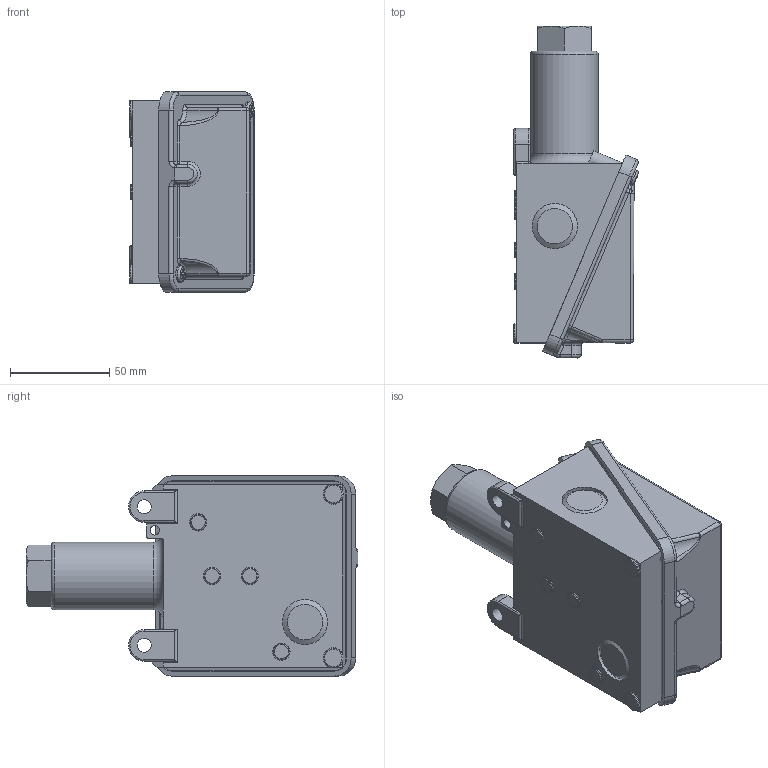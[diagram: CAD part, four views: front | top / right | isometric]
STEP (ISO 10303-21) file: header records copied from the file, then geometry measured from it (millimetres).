
FILE_DESCRIPTION (( 'STEP AP214' ), '1' );
FILE_NAME ('H100-188_189, 488_489_V5.STEP', '2025-02-28T14:26:57', ( '' ), ( '' ), 'SwSTEP 2.0', 'SolidWorks 2023', '' );
FILE_SCHEMA (( 'AUTOMOTIVE_DESIGN' ));
Length unit declared in the file: inch
Products named in the file (1): H100-188_189, 488_489_V5
Bounding box: 62.62 x 167.16 x 100.84 mm (x, y, z)
Surface area: 56161.7 mm2 (no closed solid volume)
Topology: 0 solids, 6 shells, 253 faces, 624 edges, 379 vertices
Faces by surface type: cylinder 87, plane 85, torus 42, bspline 16, cone 13, sphere 10
Full cylindrical faces by diameter (mm): 1.321 x2, 3.797 x1, 4.763 x1, 7.112 x2, 7.937 x2, 7.938 x2, 8.179 x2, 9.525 x2, 17.856 x1, 22.733 x2, 34.131 x1
Entity records: 7788 total; most frequent: CARTESIAN_POINT 2099, DIRECTION 1236, ORIENTED_EDGE 1076, EDGE_CURVE 573, AXIS2_PLACEMENT_3D 502, VERTEX_POINT 373, EDGE_LOOP 321, FACE_OUTER_BOUND 287
